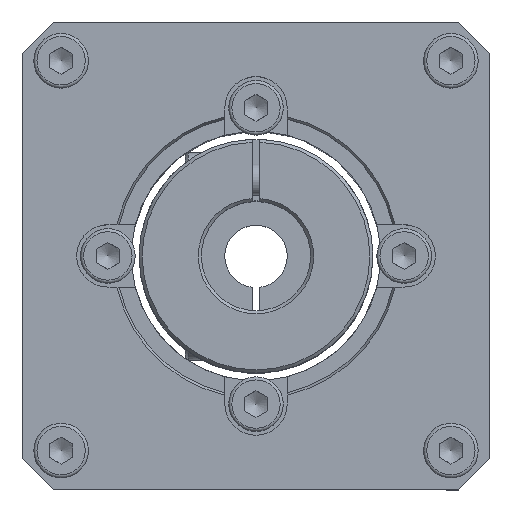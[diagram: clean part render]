
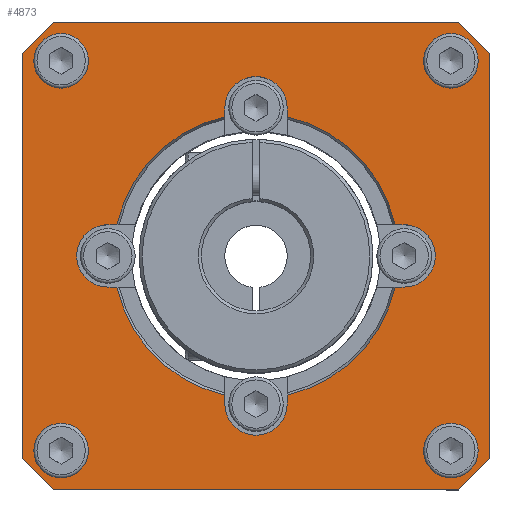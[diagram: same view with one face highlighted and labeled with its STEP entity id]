
A CAD part, top view. The second image highlights one B-rep face of the part: STEP entity #4873.
In plain terms, the highlighted planar face has unit normal (0, 0, 1).
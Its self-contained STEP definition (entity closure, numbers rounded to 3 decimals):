
#179=LINE('',#7818,#491);
#185=LINE('',#7831,#497);
#186=LINE('',#7833,#498);
#187=LINE('',#7835,#499);
#188=LINE('',#7837,#500);
#189=LINE('',#7839,#501);
#190=LINE('',#7841,#502);
#191=LINE('',#7843,#503);
#192=LINE('',#7844,#504);
#193=LINE('',#7854,#505);
#194=LINE('',#7858,#506);
#195=LINE('',#7862,#507);
#196=LINE('',#7866,#508);
#197=LINE('',#7870,#509);
#198=LINE('',#7874,#510);
#199=LINE('',#7878,#511);
#491=VECTOR('',#6101,1.154);
#497=VECTOR('',#6109,5.657);
#498=VECTOR('',#6110,52.);
#499=VECTOR('',#6111,5.657);
#500=VECTOR('',#6112,52.);
#501=VECTOR('',#6113,5.657);
#502=VECTOR('',#6114,52.);
#503=VECTOR('',#6115,5.657);
#504=VECTOR('',#6116,52.);
#505=VECTOR('',#6125,1.154);
#506=VECTOR('',#6128,1.154);
#507=VECTOR('',#6131,1.154);
#508=VECTOR('',#6134,1.154);
#509=VECTOR('',#6137,1.154);
#510=VECTOR('',#6140,1.154);
#511=VECTOR('',#6143,1.154);
#797=PLANE('',#5271);
#1056=FACE_BOUND('',#1606,.T.);
#1057=FACE_BOUND('',#1607,.T.);
#1058=FACE_BOUND('',#1608,.T.);
#1059=FACE_BOUND('',#1609,.T.);
#1060=FACE_BOUND('',#1610,.T.);
#1262=FACE_OUTER_BOUND('',#1605,.T.);
#1605=EDGE_LOOP('',(#3693,#3694,#3695,#3696,#3697,#3698,#3699,#3700));
#1606=EDGE_LOOP('',(#3701));
#1607=EDGE_LOOP('',(#3702));
#1608=EDGE_LOOP('',(#3703));
#1609=EDGE_LOOP('',(#3704));
#1610=EDGE_LOOP('',(#3705,#3706,#3707,#3708,#3709,#3710,#3711,#3712,#3713,
#3714,#3715,#3716,#3717,#3718,#3719,#3720));
#1994=CIRCLE('',#5268,18.289);
#1996=CIRCLE('',#5272,1.621);
#1997=CIRCLE('',#5273,1.621);
#1998=CIRCLE('',#5274,1.621);
#1999=CIRCLE('',#5275,1.621);
#2000=CIRCLE('',#5276,4.);
#2001=CIRCLE('',#5277,18.289);
#2002=CIRCLE('',#5278,4.);
#2003=CIRCLE('',#5279,18.289);
#2004=CIRCLE('',#5280,4.);
#2005=CIRCLE('',#5281,18.289);
#2006=CIRCLE('',#5282,4.);
#2322=VERTEX_POINT('',#7805);
#2323=VERTEX_POINT('',#7809);
#2325=VERTEX_POINT('',#7817);
#2330=VERTEX_POINT('',#7829);
#2331=VERTEX_POINT('',#7830);
#2332=VERTEX_POINT('',#7832);
#2333=VERTEX_POINT('',#7834);
#2334=VERTEX_POINT('',#7836);
#2335=VERTEX_POINT('',#7838);
#2336=VERTEX_POINT('',#7840);
#2337=VERTEX_POINT('',#7842);
#2338=VERTEX_POINT('',#7845);
#2339=VERTEX_POINT('',#7847);
#2340=VERTEX_POINT('',#7849);
#2341=VERTEX_POINT('',#7851);
#2342=VERTEX_POINT('',#7853);
#2343=VERTEX_POINT('',#7855);
#2344=VERTEX_POINT('',#7857);
#2345=VERTEX_POINT('',#7859);
#2346=VERTEX_POINT('',#7861);
#2347=VERTEX_POINT('',#7863);
#2348=VERTEX_POINT('',#7865);
#2349=VERTEX_POINT('',#7867);
#2350=VERTEX_POINT('',#7869);
#2351=VERTEX_POINT('',#7871);
#2352=VERTEX_POINT('',#7873);
#2353=VERTEX_POINT('',#7875);
#2354=VERTEX_POINT('',#7877);
#2849=EDGE_CURVE('',#2322,#2323,#1994,.T.);
#2852=EDGE_CURVE('',#2325,#2323,#179,.T.);
#2858=EDGE_CURVE('',#2330,#2331,#185,.T.);
#2859=EDGE_CURVE('',#2332,#2330,#186,.T.);
#2860=EDGE_CURVE('',#2333,#2332,#187,.T.);
#2861=EDGE_CURVE('',#2334,#2333,#188,.T.);
#2862=EDGE_CURVE('',#2335,#2334,#189,.T.);
#2863=EDGE_CURVE('',#2336,#2335,#190,.T.);
#2864=EDGE_CURVE('',#2337,#2336,#191,.T.);
#2865=EDGE_CURVE('',#2331,#2337,#192,.T.);
#2866=EDGE_CURVE('',#2338,#2338,#1996,.T.);
#2867=EDGE_CURVE('',#2339,#2339,#1997,.T.);
#2868=EDGE_CURVE('',#2340,#2340,#1998,.T.);
#2869=EDGE_CURVE('',#2341,#2341,#1999,.T.);
#2870=EDGE_CURVE('',#2322,#2342,#193,.T.);
#2871=EDGE_CURVE('',#2342,#2343,#2000,.T.);
#2872=EDGE_CURVE('',#2343,#2344,#194,.T.);
#2873=EDGE_CURVE('',#2345,#2344,#2001,.T.);
#2874=EDGE_CURVE('',#2345,#2346,#195,.T.);
#2875=EDGE_CURVE('',#2346,#2347,#2002,.T.);
#2876=EDGE_CURVE('',#2347,#2348,#196,.T.);
#2877=EDGE_CURVE('',#2349,#2348,#2003,.T.);
#2878=EDGE_CURVE('',#2349,#2350,#197,.T.);
#2879=EDGE_CURVE('',#2350,#2351,#2004,.T.);
#2880=EDGE_CURVE('',#2351,#2352,#198,.T.);
#2881=EDGE_CURVE('',#2353,#2352,#2005,.T.);
#2882=EDGE_CURVE('',#2353,#2354,#199,.T.);
#2883=EDGE_CURVE('',#2354,#2325,#2006,.T.);
#3693=ORIENTED_EDGE('',*,*,#2858,.F.);
#3694=ORIENTED_EDGE('',*,*,#2859,.F.);
#3695=ORIENTED_EDGE('',*,*,#2860,.F.);
#3696=ORIENTED_EDGE('',*,*,#2861,.F.);
#3697=ORIENTED_EDGE('',*,*,#2862,.F.);
#3698=ORIENTED_EDGE('',*,*,#2863,.F.);
#3699=ORIENTED_EDGE('',*,*,#2864,.F.);
#3700=ORIENTED_EDGE('',*,*,#2865,.F.);
#3701=ORIENTED_EDGE('',*,*,#2866,.T.);
#3702=ORIENTED_EDGE('',*,*,#2867,.T.);
#3703=ORIENTED_EDGE('',*,*,#2868,.T.);
#3704=ORIENTED_EDGE('',*,*,#2869,.T.);
#3705=ORIENTED_EDGE('',*,*,#2849,.F.);
#3706=ORIENTED_EDGE('',*,*,#2870,.T.);
#3707=ORIENTED_EDGE('',*,*,#2871,.T.);
#3708=ORIENTED_EDGE('',*,*,#2872,.T.);
#3709=ORIENTED_EDGE('',*,*,#2873,.F.);
#3710=ORIENTED_EDGE('',*,*,#2874,.T.);
#3711=ORIENTED_EDGE('',*,*,#2875,.T.);
#3712=ORIENTED_EDGE('',*,*,#2876,.T.);
#3713=ORIENTED_EDGE('',*,*,#2877,.F.);
#3714=ORIENTED_EDGE('',*,*,#2878,.T.);
#3715=ORIENTED_EDGE('',*,*,#2879,.T.);
#3716=ORIENTED_EDGE('',*,*,#2880,.T.);
#3717=ORIENTED_EDGE('',*,*,#2881,.F.);
#3718=ORIENTED_EDGE('',*,*,#2882,.T.);
#3719=ORIENTED_EDGE('',*,*,#2883,.T.);
#3720=ORIENTED_EDGE('',*,*,#2852,.T.);
#4873=ADVANCED_FACE('',(#1262,#1056,#1057,#1058,#1059,#1060),#797,.T.);
#5268=AXIS2_PLACEMENT_3D('',#7810,#6095,#6096);
#5271=AXIS2_PLACEMENT_3D('',#7828,#6107,#6108);
#5272=AXIS2_PLACEMENT_3D('',#7846,#6117,#6118);
#5273=AXIS2_PLACEMENT_3D('',#7848,#6119,#6120);
#5274=AXIS2_PLACEMENT_3D('',#7850,#6121,#6122);
#5275=AXIS2_PLACEMENT_3D('',#7852,#6123,#6124);
#5276=AXIS2_PLACEMENT_3D('',#7856,#6126,#6127);
#5277=AXIS2_PLACEMENT_3D('',#7860,#6129,#6130);
#5278=AXIS2_PLACEMENT_3D('',#7864,#6132,#6133);
#5279=AXIS2_PLACEMENT_3D('',#7868,#6135,#6136);
#5280=AXIS2_PLACEMENT_3D('',#7872,#6138,#6139);
#5281=AXIS2_PLACEMENT_3D('',#7876,#6141,#6142);
#5282=AXIS2_PLACEMENT_3D('',#7879,#6144,#6145);
#6095=DIRECTION('center_axis',(0.,0.,1.));
#6096=DIRECTION('ref_axis',(1.,0.,0.));
#6101=DIRECTION('',(-1.,0.,0.));
#6107=DIRECTION('center_axis',(0.,0.,1.));
#6108=DIRECTION('ref_axis',(1.,0.,0.));
#6109=DIRECTION('',(0.707,-0.707,0.));
#6110=DIRECTION('',(1.,0.,0.));
#6111=DIRECTION('',(0.707,0.707,0.));
#6112=DIRECTION('',(0.,1.,0.));
#6113=DIRECTION('',(-0.707,0.707,0.));
#6114=DIRECTION('',(-1.,0.,0.));
#6115=DIRECTION('',(-0.707,-0.707,0.));
#6116=DIRECTION('',(0.,-1.,0.));
#6117=DIRECTION('center_axis',(0.,0.,-1.));
#6118=DIRECTION('ref_axis',(1.,0.,0.));
#6119=DIRECTION('center_axis',(0.,0.,-1.));
#6120=DIRECTION('ref_axis',(1.,0.,0.));
#6121=DIRECTION('center_axis',(0.,0.,-1.));
#6122=DIRECTION('ref_axis',(1.,0.,0.));
#6123=DIRECTION('center_axis',(0.,0.,-1.));
#6124=DIRECTION('ref_axis',(1.,0.,0.));
#6125=DIRECTION('',(0.,-1.,0.));
#6126=DIRECTION('center_axis',(0.,0.,-1.));
#6127=DIRECTION('ref_axis',(-1.,0.,0.));
#6128=DIRECTION('',(0.,1.,0.));
#6129=DIRECTION('center_axis',(0.,0.,1.));
#6130=DIRECTION('ref_axis',(-1.,0.,0.));
#6131=DIRECTION('',(-1.,0.,0.));
#6132=DIRECTION('center_axis',(0.,0.,-1.));
#6133=DIRECTION('ref_axis',(0.,1.,0.));
#6134=DIRECTION('',(1.,0.,0.));
#6135=DIRECTION('center_axis',(0.,0.,1.));
#6136=DIRECTION('ref_axis',(-1.,0.,0.));
#6137=DIRECTION('',(0.,1.,0.));
#6138=DIRECTION('center_axis',(0.,0.,-1.));
#6139=DIRECTION('ref_axis',(1.,0.,0.));
#6140=DIRECTION('',(0.,-1.,0.));
#6141=DIRECTION('center_axis',(0.,0.,1.));
#6142=DIRECTION('ref_axis',(1.,0.,0.));
#6143=DIRECTION('',(1.,0.,0.));
#6144=DIRECTION('center_axis',(0.,0.,-1.));
#6145=DIRECTION('ref_axis',(0.,-1.,0.));
#7805=CARTESIAN_POINT('',(4.,-17.846,15.4));
#7809=CARTESIAN_POINT('',(17.846,-4.,15.4));
#7810=CARTESIAN_POINT('Origin',(0.,0.,15.4));
#7817=CARTESIAN_POINT('',(19.,-4.,15.4));
#7818=CARTESIAN_POINT('',(7.746,-4.,15.4));
#7828=CARTESIAN_POINT('Origin',(0.,0.,
15.4));
#7829=CARTESIAN_POINT('',(26.,30.,15.4));
#7830=CARTESIAN_POINT('',(30.,26.,15.4));
#7831=CARTESIAN_POINT('',(28.,28.,15.4));
#7832=CARTESIAN_POINT('',(-26.,30.,15.4));
#7833=CARTESIAN_POINT('',(-30.,30.,15.4));
#7834=CARTESIAN_POINT('',(-30.,26.,15.4));
#7835=CARTESIAN_POINT('',(-28.,28.,15.4));
#7836=CARTESIAN_POINT('',(-30.,-26.,15.4));
#7837=CARTESIAN_POINT('',(-30.,-30.,15.4));
#7838=CARTESIAN_POINT('',(-26.,-30.,15.4));
#7839=CARTESIAN_POINT('',(-28.,-28.,15.4));
#7840=CARTESIAN_POINT('',(26.,-30.,15.4));
#7841=CARTESIAN_POINT('',(30.,-30.,15.4));
#7842=CARTESIAN_POINT('',(30.,-26.,15.4));
#7843=CARTESIAN_POINT('',(28.,-28.,15.4));
#7844=CARTESIAN_POINT('',(30.,30.,15.4));
#7845=CARTESIAN_POINT('',(26.621,-25.,15.4));
#7846=CARTESIAN_POINT('Origin',(25.,-25.,15.4));
#7847=CARTESIAN_POINT('',(-23.379,-25.,15.4));
#7848=CARTESIAN_POINT('Origin',(-25.,-25.,15.4));
#7849=CARTESIAN_POINT('',(-23.379,25.,15.4));
#7850=CARTESIAN_POINT('Origin',(-25.,25.,15.4));
#7851=CARTESIAN_POINT('',(26.621,25.,15.4));
#7852=CARTESIAN_POINT('Origin',(25.,25.,15.4));
#7853=CARTESIAN_POINT('',(4.,-19.,15.4));
#7854=CARTESIAN_POINT('',(4.,-9.5,15.4));
#7855=CARTESIAN_POINT('',(-4.,-19.,15.4));
#7856=CARTESIAN_POINT('Origin',(0.,-19.,15.4));
#7857=CARTESIAN_POINT('',(-4.,-17.846,15.4));
#7858=CARTESIAN_POINT('',(-4.,-7.746,15.4));
#7859=CARTESIAN_POINT('',(-17.846,-4.,15.4));
#7860=CARTESIAN_POINT('Origin',(0.,0.,15.4));
#7861=CARTESIAN_POINT('',(-19.,-4.,15.4));
#7862=CARTESIAN_POINT('',(-9.5,-4.,15.4));
#7863=CARTESIAN_POINT('',(-19.,4.,15.4));
#7864=CARTESIAN_POINT('Origin',(-19.,0.,15.4));
#7865=CARTESIAN_POINT('',(-17.846,4.,15.4));
#7866=CARTESIAN_POINT('',(-7.746,4.,15.4));
#7867=CARTESIAN_POINT('',(-4.,17.846,15.4));
#7868=CARTESIAN_POINT('Origin',(0.,0.,15.4));
#7869=CARTESIAN_POINT('',(-4.,19.,15.4));
#7870=CARTESIAN_POINT('',(-4.,9.5,15.4));
#7871=CARTESIAN_POINT('',(4.,19.,15.4));
#7872=CARTESIAN_POINT('Origin',(0.,19.,15.4));
#7873=CARTESIAN_POINT('',(4.,17.846,15.4));
#7874=CARTESIAN_POINT('',(4.,7.746,15.4));
#7875=CARTESIAN_POINT('',(17.846,4.,15.4));
#7876=CARTESIAN_POINT('Origin',(0.,0.,15.4));
#7877=CARTESIAN_POINT('',(19.,4.,15.4));
#7878=CARTESIAN_POINT('',(9.5,4.,15.4));
#7879=CARTESIAN_POINT('Origin',(19.,0.,15.4));
